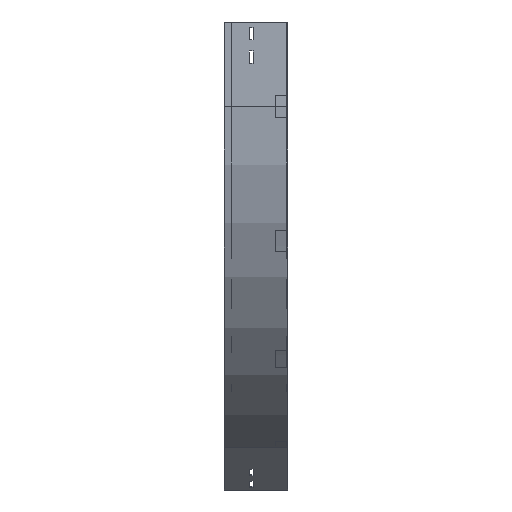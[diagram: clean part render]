
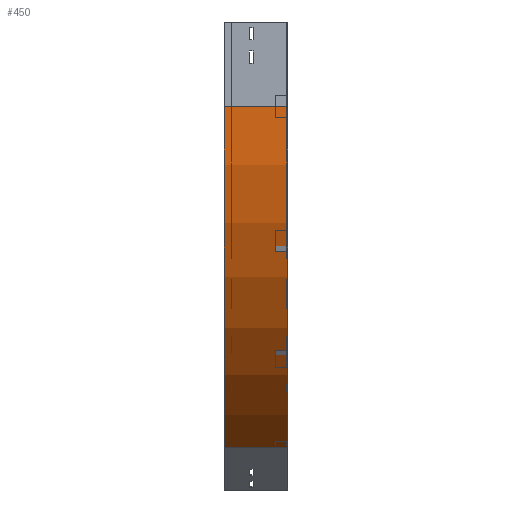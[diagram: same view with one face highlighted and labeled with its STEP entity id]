
A CAD part, left-side view. The second image highlights one B-rep face of the part: STEP entity #450.
In plain terms, the highlighted cylindrical face has radius 700 mm (diameter 1400 mm), a partial arc.
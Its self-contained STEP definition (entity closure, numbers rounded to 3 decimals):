
#72 = VECTOR ( 'NONE', #1812, 1000. ) ;
#197 = DIRECTION ( 'NONE',  ( 0., 0., -1. ) ) ;
#422 = VERTEX_POINT ( 'NONE', #1692 ) ;
#432 = DIRECTION ( 'NONE',  ( 0., -1., 0. ) ) ;
#450 = ADVANCED_FACE ( 'NONE', ( #2038 ), #564, .T. ) ;
#540 = CARTESIAN_POINT ( 'NONE',  ( 350., 0., -756.218 ) ) ;
#542 = LINE ( 'NONE', #2625, #2937 ) ;
#564 = CYLINDRICAL_SURFACE ( 'NONE', #575, 700. ) ;
#575 = AXIS2_PLACEMENT_3D ( 'NONE', #1746, #2867, #197 ) ;
#703 = CARTESIAN_POINT ( 'NONE',  ( 350., 112.5, -756.218 ) ) ;
#728 = ORIENTED_EDGE ( 'NONE', *, *, #2111, .F. ) ;
#752 = EDGE_CURVE ( 'NONE', #1858, #422, #542, .T. ) ;
#931 = ORIENTED_EDGE ( 'NONE', *, *, #2414, .T. ) ;
#964 = LINE ( 'NONE', #3302, #72 ) ;
#1042 = AXIS2_PLACEMENT_3D ( 'NONE', #1709, #1266, #2503 ) ;
#1266 = DIRECTION ( 'NONE',  ( 0., -1., 0. ) ) ;
#1362 = ORIENTED_EDGE ( 'NONE', *, *, #752, .F. ) ;
#1385 = VERTEX_POINT ( 'NONE', #703 ) ;
#1594 = DIRECTION ( 'NONE',  ( -1., 0., 0. ) ) ;
#1638 = ORIENTED_EDGE ( 'NONE', *, *, #2887, .T. ) ;
#1692 = CARTESIAN_POINT ( 'NONE',  ( 0., 0., -150. ) ) ;
#1709 = CARTESIAN_POINT ( 'NONE',  ( 700., 112.5, -150. ) ) ;
#1746 = CARTESIAN_POINT ( 'NONE',  ( 700., 0., -150. ) ) ;
#1812 = DIRECTION ( 'NONE',  ( 0., -1., 0. ) ) ;
#1858 = VERTEX_POINT ( 'NONE', #3720 ) ;
#2038 = FACE_OUTER_BOUND ( 'NONE', #3794, .T. ) ;
#2111 = EDGE_CURVE ( 'NONE', #422, #2673, #2188, .T. ) ;
#2188 = CIRCLE ( 'NONE', #3301, 700. ) ;
#2414 = EDGE_CURVE ( 'NONE', #1385, #2673, #964, .T. ) ;
#2503 = DIRECTION ( 'NONE',  ( -1., 0., 0. ) ) ;
#2625 = CARTESIAN_POINT ( 'NONE',  ( 0., 0., -150. ) ) ;
#2673 = VERTEX_POINT ( 'NONE', #540 ) ;
#2788 = CARTESIAN_POINT ( 'NONE',  ( 700., 0., -150. ) ) ;
#2867 = DIRECTION ( 'NONE',  ( 0., -1., 0. ) ) ;
#2887 = EDGE_CURVE ( 'NONE', #1858, #1385, #3101, .T. ) ;
#2937 = VECTOR ( 'NONE', #3442, 1000. ) ;
#3101 = CIRCLE ( 'NONE', #1042, 700. ) ;
#3301 = AXIS2_PLACEMENT_3D ( 'NONE', #2788, #432, #1594 ) ;
#3302 = CARTESIAN_POINT ( 'NONE',  ( 350., 0., -756.218 ) ) ;
#3442 = DIRECTION ( 'NONE',  ( 0., -1., 0. ) ) ;
#3720 = CARTESIAN_POINT ( 'NONE',  ( 0., 112.5, -150. ) ) ;
#3794 = EDGE_LOOP ( 'NONE', ( #728, #1362, #1638, #931 ) ) ;
